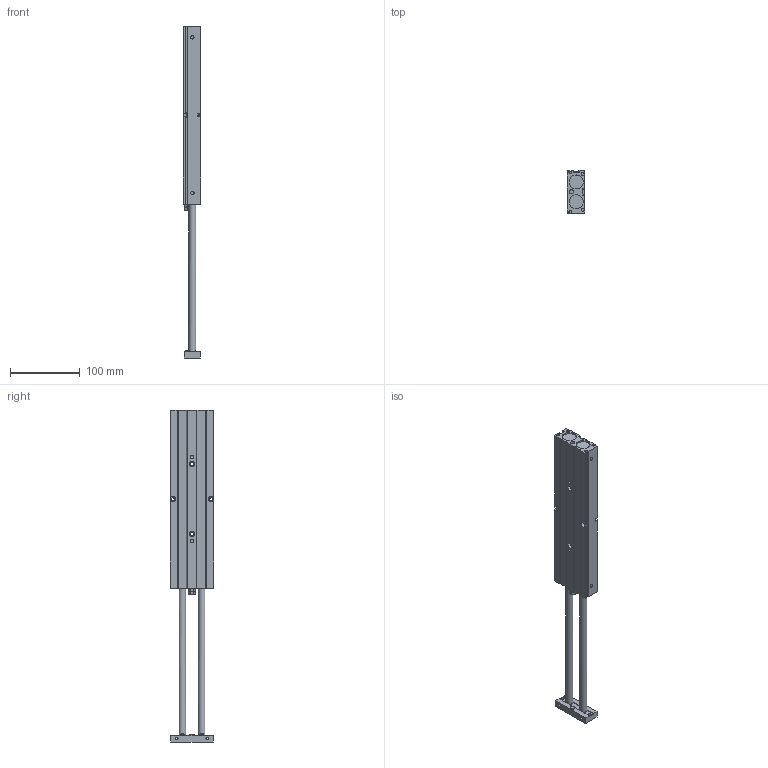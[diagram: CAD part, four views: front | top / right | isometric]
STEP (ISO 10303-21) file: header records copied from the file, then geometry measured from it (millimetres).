
FILE_DESCRIPTION((''),'2;1');
FILE_NAME('I:\3D電子目錄\氣缸\TD\TD20\TD20\TD20x200.stp','2007-08-06T09:48:04',('Administrator'),(''),'Autodesk Inventor 2008','Autodesk Inventor 2008','');
FILE_SCHEMA(('AUTOMOTIVE_DESIGN { 1 0 10303 214 1 1 1 1 }'));
Length unit declared in the file: millimetre
Products named in the file (1): TD20X200
Bounding box: 25 x 62 x 475 mm (x, y, z)
Volume: 398997.5 mm3; surface area: 83899.8 mm2
Topology: 1 solids, 3 shells, 197 faces, 503 edges, 329 vertices
Faces by surface type: plane 136, cylinder 48, cone 7, bspline 4, torus 2
Full cylindrical faces by diameter (mm): 4 x4, 4.5 x4, 5 x4, 6 x2, 7 x2, 8 x6, 9 x2, 10 x2, 20 x4
Entity records: 6108 total; most frequent: CARTESIAN_POINT 1453, DIRECTION 927, ORIENTED_EDGE 916, EDGE_CURVE 458, VERTEX_POINT 323, AXIS2_PLACEMENT_3D 310, VECTOR 307, LINE 307
